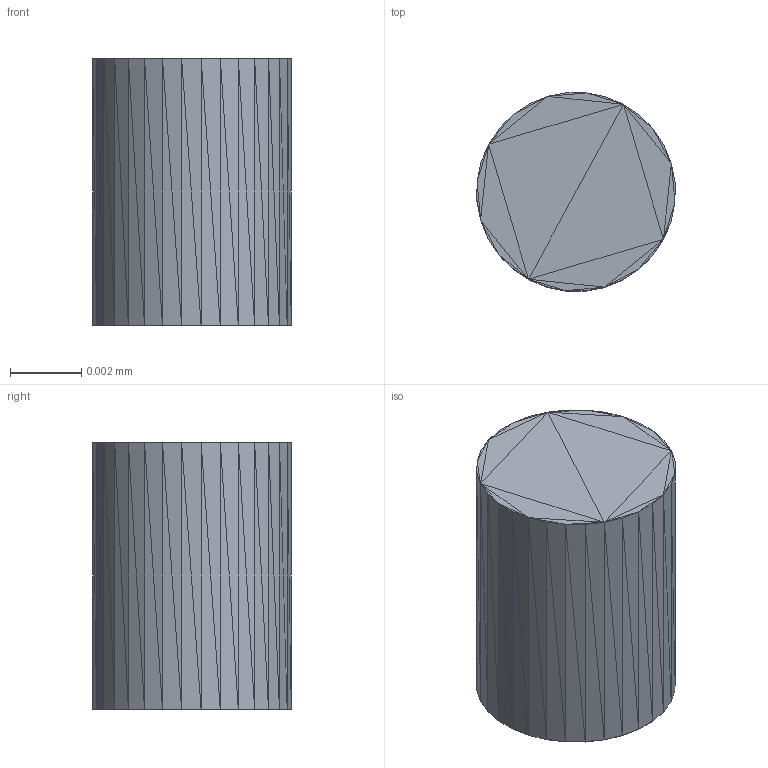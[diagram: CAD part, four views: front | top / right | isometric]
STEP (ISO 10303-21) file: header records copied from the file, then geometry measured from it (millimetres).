
FILE_DESCRIPTION((' Model'),'2;1');
FILE_NAME(' Shape Model','2026-05-29T17:25:45',(''),( ''),' ','','Unknown');
FILE_SCHEMA(('AUTOMOTIVE_DESIGN { 1 0 10303 214 1 1 1 1 }'));
Length unit declared in the file: millimetre
Products named in the file (1):  STEP translator 7.5 1
Bounding box: 0.01 x 0.01 x 0.01 mm (x, y, z)
Surface area: 0 mm2 (no closed solid volume)
Topology: 0 solids, 1 shells, 124 faces, 186 edges, 64 vertices
Faces by surface type: plane 124
Entity records: 4672 total; most frequent: CARTESIAN_POINT 933, DIRECTION 622, ORIENTED_EDGE 372, LINE 372, VECTOR 372, PCURVE 372, DEFINITIONAL_REPRESENTATION 372, EDGE_CURVE 186
